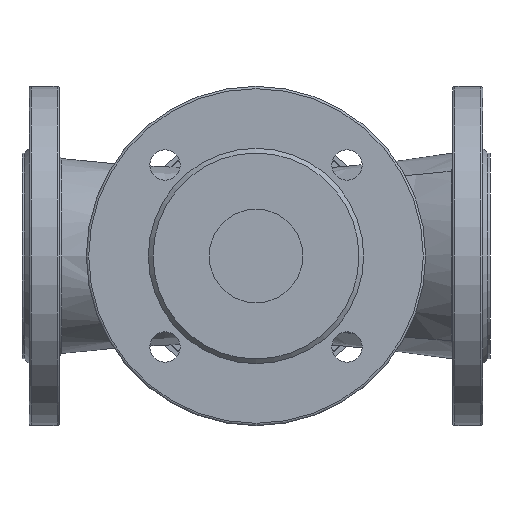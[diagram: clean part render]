
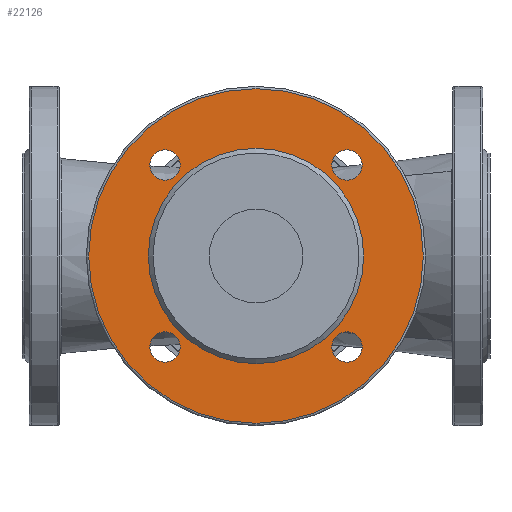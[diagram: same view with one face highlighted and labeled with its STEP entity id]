
A CAD part, front view. The second image highlights one B-rep face of the part: STEP entity #22126.
In plain terms, the highlighted planar face has unit normal (0, -1, 0).
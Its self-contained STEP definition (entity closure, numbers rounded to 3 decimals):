
#997=PLANE('',#23957);
#1210=FACE_BOUND('',#3881,.T.);
#1211=FACE_BOUND('',#3882,.T.);
#1212=FACE_BOUND('',#3883,.T.);
#1213=FACE_BOUND('',#3884,.T.);
#1214=FACE_BOUND('',#3885,.T.);
#2451=FACE_OUTER_BOUND('',#3880,.T.);
#3880=EDGE_LOOP('',(#20506));
#3881=EDGE_LOOP('',(#20507));
#3882=EDGE_LOOP('',(#20508));
#3883=EDGE_LOOP('',(#20509));
#3884=EDGE_LOOP('',(#20510));
#3885=EDGE_LOOP('',(#20511));
#8802=CIRCLE('',#23895,6.5);
#8804=CIRCLE('',#23898,6.5);
#8806=CIRCLE('',#23901,6.5);
#8808=CIRCLE('',#23904,6.5);
#8838=CIRCLE('',#23956,46.);
#8839=CIRCLE('',#23958,71.5);
#10940=VERTEX_POINT('',#43678);
#10942=VERTEX_POINT('',#43683);
#10944=VERTEX_POINT('',#43688);
#10946=VERTEX_POINT('',#43693);
#10989=VERTEX_POINT('',#44921);
#10990=VERTEX_POINT('',#44924);
#14129=EDGE_CURVE('',#10940,#10940,#8802,.T.);
#14131=EDGE_CURVE('',#10942,#10942,#8804,.T.);
#14133=EDGE_CURVE('',#10944,#10944,#8806,.T.);
#14135=EDGE_CURVE('',#10946,#10946,#8808,.T.);
#14183=EDGE_CURVE('',#10989,#10989,#8838,.T.);
#14184=EDGE_CURVE('',#10990,#10990,#8839,.T.);
#20506=ORIENTED_EDGE('',*,*,#14184,.F.);
#20507=ORIENTED_EDGE('',*,*,#14129,.T.);
#20508=ORIENTED_EDGE('',*,*,#14131,.T.);
#20509=ORIENTED_EDGE('',*,*,#14133,.T.);
#20510=ORIENTED_EDGE('',*,*,#14135,.T.);
#20511=ORIENTED_EDGE('',*,*,#14183,.F.);
#22126=ADVANCED_FACE('',(#2451,#1210,#1211,#1212,#1213,#1214),#997,.T.);
#23895=AXIS2_PLACEMENT_3D('',#43679,#29251,#29252);
#23898=AXIS2_PLACEMENT_3D('',#43684,#29257,#29258);
#23901=AXIS2_PLACEMENT_3D('',#43689,#29263,#29264);
#23904=AXIS2_PLACEMENT_3D('',#43694,#29269,#29270);
#23956=AXIS2_PLACEMENT_3D('',#44922,#29374,#29375);
#23957=AXIS2_PLACEMENT_3D('',#44923,#29376,#29377);
#23958=AXIS2_PLACEMENT_3D('',#44925,#29378,#29379);
#29251=DIRECTION('center_axis',(0.,1.,0.));
#29252=DIRECTION('ref_axis',(-0.581,0.,0.814));
#29257=DIRECTION('center_axis',(0.,1.,0.));
#29258=DIRECTION('ref_axis',(-0.814,0.,-0.581));
#29263=DIRECTION('center_axis',(0.,1.,0.));
#29264=DIRECTION('ref_axis',(0.581,0.,-0.814));
#29269=DIRECTION('center_axis',(0.,1.,0.));
#29270=DIRECTION('ref_axis',(0.814,0.,0.581));
#29374=DIRECTION('center_axis',(0.,-1.,0.));
#29375=DIRECTION('ref_axis',(0.814,0.,-0.581));
#29376=DIRECTION('center_axis',(0.,-1.,0.));
#29377=DIRECTION('ref_axis',(0.,0.,-1.));
#29378=DIRECTION('center_axis',(0.,1.,0.));
#29379=DIRECTION('ref_axis',(0.,0.,-1.));
#43678=CARTESIAN_POINT('',(1166.36,795.804,855.391));
#43679=CARTESIAN_POINT('Origin',(1166.36,795.804,848.891));
#43683=CARTESIAN_POINT('',(1159.86,795.804,771.109));
#43684=CARTESIAN_POINT('Origin',(1166.36,795.804,771.109));
#43688=CARTESIAN_POINT('',(1244.141,795.804,764.609));
#43689=CARTESIAN_POINT('Origin',(1244.141,795.804,771.109));
#43693=CARTESIAN_POINT('',(1250.641,795.804,848.891));
#43694=CARTESIAN_POINT('Origin',(1244.141,795.804,848.891));
#44921=CARTESIAN_POINT('',(1251.251,795.804,810.));
#44922=CARTESIAN_POINT('Origin',(1205.251,795.804,810.));
#44923=CARTESIAN_POINT('Origin',(1133.751,795.804,810.));
#44924=CARTESIAN_POINT('',(1276.751,795.804,810.));
#44925=CARTESIAN_POINT('Origin',(1205.251,795.804,810.));
